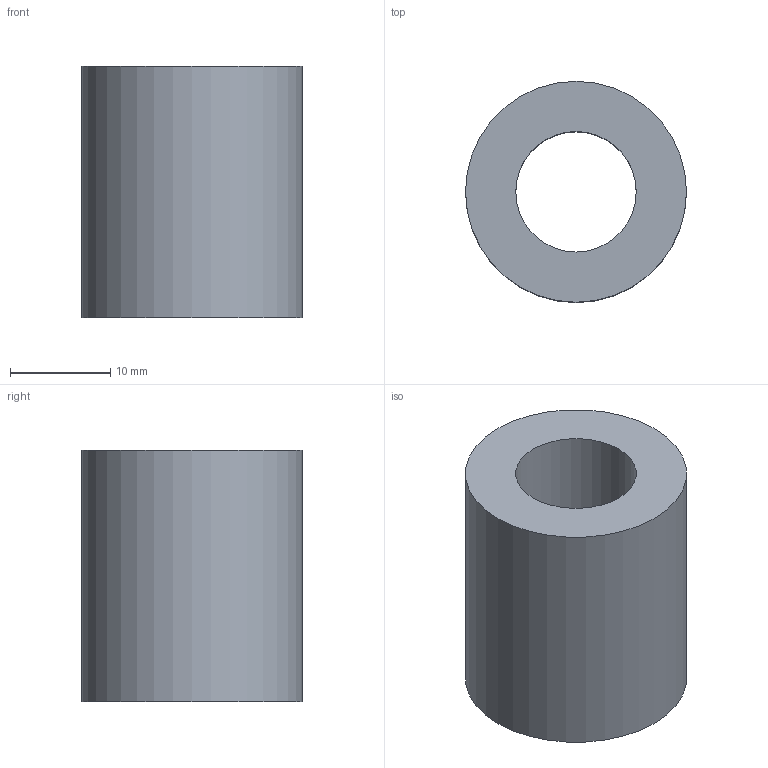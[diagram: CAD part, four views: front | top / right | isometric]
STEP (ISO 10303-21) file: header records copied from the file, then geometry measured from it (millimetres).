
FILE_DESCRIPTION( ( 'Unknown' ), '1' );
FILE_NAME( 'F:/navkite transat/construction/2016/3D ET ASSEMBLAGES/AMI/AMI 19.stp', 'Unknown', ( 'GMA' ), ( 'Unknown' ), 'XStep 1.0', 'Unknown', ' ' );
FILE_SCHEMA( ( 'automotive_design' ) );
Length unit declared in the file: millimetre
Products named in the file (1): 1
Bounding box: 22 x 22 x 25 mm (x, y, z)
Volume: 6675.9 mm3; surface area: 3204.4 mm2
Topology: 1 solids, 1 shells, 4 faces, 6 edges, 4 vertices
Faces by surface type: cylinder 2, plane 2
Full cylindrical faces by diameter (mm): 12 x1, 22 x1
Entity records: 136 total; most frequent: DIRECTION 18, CARTESIAN_POINT 13, AXIS2_PLACEMENT_3D 9, EDGE_LOOP 8, ORIENTED_EDGE 8, FACE_OUTER_BOUND 6, STYLED_ITEM 4, PRESENTATION_STYLE_ASSIGNMENT 4
